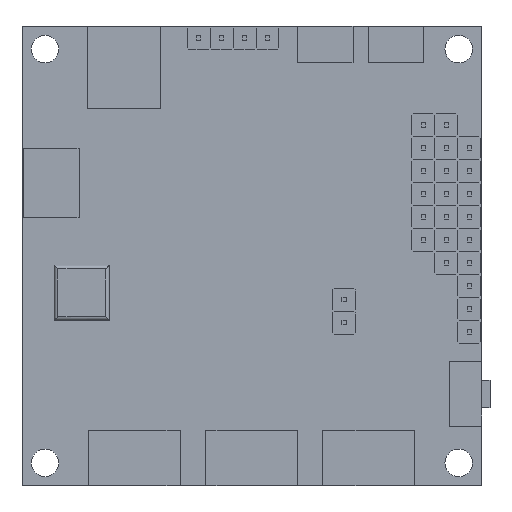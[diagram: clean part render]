
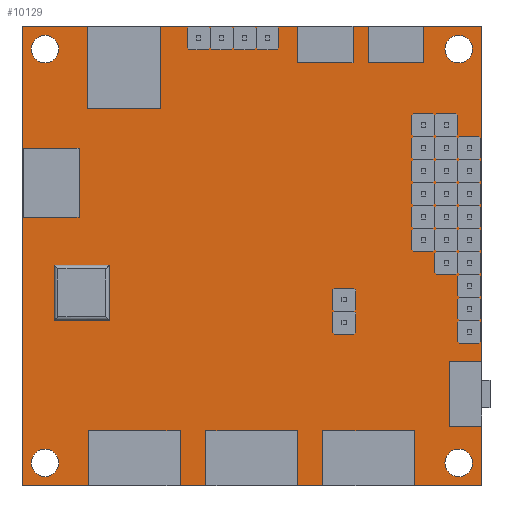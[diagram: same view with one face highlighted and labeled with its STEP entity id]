
A CAD part, top view. The second image highlights one B-rep face of the part: STEP entity #10129.
In plain terms, the highlighted planar face has unit normal (0, 0, 1).
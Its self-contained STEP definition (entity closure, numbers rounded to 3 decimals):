
#212 = CIRCLE ( 'NONE', #13092, 1.5 ) ;
#260 = DIRECTION ( 'NONE',  ( 1., 0., 0. ) ) ;
#282 = CARTESIAN_POINT ( 'NONE',  ( 6.041, 6.837, 1.5 ) ) ;
#319 = CARTESIAN_POINT ( 'NONE',  ( 51.041, 51.837, 1.5 ) ) ;
#572 = DIRECTION ( 'NONE',  ( 1., 0., 0. ) ) ;
#582 = EDGE_CURVE ( 'NONE', #12438, #13247, #5208, .T. ) ;
#610 = DIRECTION ( 'NONE',  ( 1., 0., 0. ) ) ;
#819 = EDGE_CURVE ( 'NONE', #7629, #3370, #2709, .T. ) ;
#1092 = ORIENTED_EDGE ( 'NONE', *, *, #7605, .T. ) ;
#1365 = DIRECTION ( 'NONE',  ( 1., 0., 0. ) ) ;
#1439 = LINE ( 'NONE', #7524, #5075 ) ;
#1453 = DIRECTION ( 'NONE',  ( 0., 0., -1. ) ) ;
#1656 = DIRECTION ( 'NONE',  ( 0., 1., 0. ) ) ;
#1691 = EDGE_LOOP ( 'NONE', ( #1092, #5150 ) ) ;
#1757 = FACE_BOUND ( 'NONE', #8066, .T. ) ;
#1876 = AXIS2_PLACEMENT_3D ( 'NONE', #15064, #6921, #12732 ) ;
#2422 = CIRCLE ( 'NONE', #13691, 1.5 ) ;
#2684 = CARTESIAN_POINT ( 'NONE',  ( 7.541, 6.837, 1.5 ) ) ;
#2709 = CIRCLE ( 'NONE', #2741, 1.5 ) ;
#2740 = DIRECTION ( 'NONE',  ( 1., 0., 0. ) ) ;
#2741 = AXIS2_PLACEMENT_3D ( 'NONE', #4185, #11204, #572 ) ;
#2888 = DIRECTION ( 'NONE',  ( 0., -1., 0. ) ) ;
#3116 = CARTESIAN_POINT ( 'NONE',  ( 54.041, 6.837, 1.5 ) ) ;
#3240 = EDGE_CURVE ( 'NONE', #12378, #6627, #2422, .T. ) ;
#3370 = VERTEX_POINT ( 'NONE', #282 ) ;
#3459 = EDGE_CURVE ( 'NONE', #3370, #7629, #4963, .T. ) ;
#3487 = CARTESIAN_POINT ( 'NONE',  ( 54.041, 51.837, 1.5 ) ) ;
#3589 = VECTOR ( 'NONE', #9611, 1000. ) ;
#4069 = CARTESIAN_POINT ( 'NONE',  ( 30.041, 29.337, 1.5 ) ) ;
#4185 = CARTESIAN_POINT ( 'NONE',  ( 7.541, 6.837, 1.5 ) ) ;
#4383 = EDGE_CURVE ( 'NONE', #9894, #12129, #12420, .T. ) ;
#4760 = CARTESIAN_POINT ( 'NONE',  ( 52.541, 51.837, 1.5 ) ) ;
#4778 = DIRECTION ( 'NONE',  ( -1., 0., 0. ) ) ;
#4963 = CIRCLE ( 'NONE', #6074, 1.5 ) ;
#5075 = VECTOR ( 'NONE', #2888, 1000. ) ;
#5095 = CARTESIAN_POINT ( 'NONE',  ( 5.041, 54.337, 1.5 ) ) ;
#5150 = ORIENTED_EDGE ( 'NONE', *, *, #3240, .T. ) ;
#5208 = CIRCLE ( 'NONE', #1876, 1.5 ) ;
#5390 = FACE_BOUND ( 'NONE', #1691, .T. ) ;
#5451 = EDGE_LOOP ( 'NONE', ( #8948, #9742 ) ) ;
#5512 = VECTOR ( 'NONE', #1656, 1000. ) ;
#5553 = CARTESIAN_POINT ( 'NONE',  ( 9.041, 51.837, 1.5 ) ) ;
#5637 = DIRECTION ( 'NONE',  ( 1., 0., 0. ) ) ;
#5677 = ORIENTED_EDGE ( 'NONE', *, *, #11254, .T. ) ;
#5941 = DIRECTION ( 'NONE',  ( 0., 0., -1. ) ) ;
#5968 = VECTOR ( 'NONE', #4778, 1000. ) ;
#6074 = AXIS2_PLACEMENT_3D ( 'NONE', #2684, #10825, #2740 ) ;
#6117 = FACE_BOUND ( 'NONE', #9302, .T. ) ;
#6305 = CARTESIAN_POINT ( 'NONE',  ( 30.041, 4.337, 1.5 ) ) ;
#6426 = DIRECTION ( 'NONE',  ( 0., 0., 1. ) ) ;
#6452 = CARTESIAN_POINT ( 'NONE',  ( 5.041, 4.337, 1.5 ) ) ;
#6627 = VERTEX_POINT ( 'NONE', #3116 ) ;
#6806 = AXIS2_PLACEMENT_3D ( 'NONE', #11379, #11430, #5637 ) ;
#6921 = DIRECTION ( 'NONE',  ( 0., 0., -1. ) ) ;
#7177 = ORIENTED_EDGE ( 'NONE', *, *, #13364, .T. ) ;
#7362 = CARTESIAN_POINT ( 'NONE',  ( 52.541, 51.837, 1.5 ) ) ;
#7524 = CARTESIAN_POINT ( 'NONE',  ( 5.041, 29.337, 1.5 ) ) ;
#7605 = EDGE_CURVE ( 'NONE', #6627, #12378, #8392, .T. ) ;
#7626 = LINE ( 'NONE', #11609, #5968 ) ;
#7629 = VERTEX_POINT ( 'NONE', #10365 ) ;
#7695 = ORIENTED_EDGE ( 'NONE', *, *, #3459, .T. ) ;
#7812 = CARTESIAN_POINT ( 'NONE',  ( 6.041, 51.837, 1.5 ) ) ;
#7991 = EDGE_CURVE ( 'NONE', #10070, #10714, #1439, .T. ) ;
#8066 = EDGE_LOOP ( 'NONE', ( #8099, #10370 ) ) ;
#8099 = ORIENTED_EDGE ( 'NONE', *, *, #4383, .T. ) ;
#8132 = AXIS2_PLACEMENT_3D ( 'NONE', #7362, #1453, #260 ) ;
#8182 = CARTESIAN_POINT ( 'NONE',  ( 55.041, 54.337, 1.5 ) ) ;
#8260 = DIRECTION ( 'NONE',  ( 0., 0., -1. ) ) ;
#8364 = CARTESIAN_POINT ( 'NONE',  ( 52.541, 6.837, 1.5 ) ) ;
#8392 = CIRCLE ( 'NONE', #6806, 1.5 ) ;
#8948 = ORIENTED_EDGE ( 'NONE', *, *, #10035, .T. ) ;
#9038 = ORIENTED_EDGE ( 'NONE', *, *, #819, .T. ) ;
#9152 = LINE ( 'NONE', #10915, #5512 ) ;
#9302 = EDGE_LOOP ( 'NONE', ( #9038, #7695 ) ) ;
#9399 = EDGE_CURVE ( 'NONE', #12129, #9894, #9932, .T. ) ;
#9611 = DIRECTION ( 'NONE',  ( 1., 0., 0. ) ) ;
#9659 = CARTESIAN_POINT ( 'NONE',  ( 55.041, 4.337, 1.5 ) ) ;
#9742 = ORIENTED_EDGE ( 'NONE', *, *, #582, .T. ) ;
#9894 = VERTEX_POINT ( 'NONE', #3487 ) ;
#9895 = CARTESIAN_POINT ( 'NONE',  ( 51.041, 6.837, 1.5 ) ) ;
#9932 = CIRCLE ( 'NONE', #8132, 1.5 ) ;
#9963 = EDGE_LOOP ( 'NONE', ( #5677, #7177, #10113, #12634 ) ) ;
#10035 = EDGE_CURVE ( 'NONE', #13247, #12438, #212, .T. ) ;
#10070 = VERTEX_POINT ( 'NONE', #5095 ) ;
#10071 = DIRECTION ( 'NONE',  ( 1., 0., 0. ) ) ;
#10113 = ORIENTED_EDGE ( 'NONE', *, *, #7991, .T. ) ;
#10129 = ADVANCED_FACE ( 'NONE', ( #1757, #5390, #10848, #6117, #14350 ), #11051, .T. ) ;
#10365 = CARTESIAN_POINT ( 'NONE',  ( 9.041, 6.837, 1.5 ) ) ;
#10370 = ORIENTED_EDGE ( 'NONE', *, *, #9399, .T. ) ;
#10714 = VERTEX_POINT ( 'NONE', #6452 ) ;
#10825 = DIRECTION ( 'NONE',  ( 0., 0., -1. ) ) ;
#10848 = FACE_BOUND ( 'NONE', #5451, .T. ) ;
#10915 = CARTESIAN_POINT ( 'NONE',  ( 55.041, 29.337, 1.5 ) ) ;
#11051 = PLANE ( 'NONE',  #13046 ) ;
#11204 = DIRECTION ( 'NONE',  ( 0., 0., -1. ) ) ;
#11254 = EDGE_CURVE ( 'NONE', #13938, #15084, #9152, .T. ) ;
#11379 = CARTESIAN_POINT ( 'NONE',  ( 52.541, 6.837, 1.5 ) ) ;
#11430 = DIRECTION ( 'NONE',  ( 0., 0., -1. ) ) ;
#11609 = CARTESIAN_POINT ( 'NONE',  ( 30.041, 54.337, 1.5 ) ) ;
#12129 = VERTEX_POINT ( 'NONE', #319 ) ;
#12248 = CARTESIAN_POINT ( 'NONE',  ( 7.541, 51.837, 1.5 ) ) ;
#12378 = VERTEX_POINT ( 'NONE', #9895 ) ;
#12420 = CIRCLE ( 'NONE', #14704, 1.5 ) ;
#12438 = VERTEX_POINT ( 'NONE', #7812 ) ;
#12535 = LINE ( 'NONE', #6305, #3589 ) ;
#12634 = ORIENTED_EDGE ( 'NONE', *, *, #13968, .T. ) ;
#12732 = DIRECTION ( 'NONE',  ( 1., 0., 0. ) ) ;
#13046 = AXIS2_PLACEMENT_3D ( 'NONE', #4069, #6426, #10071 ) ;
#13092 = AXIS2_PLACEMENT_3D ( 'NONE', #12248, #13269, #610 ) ;
#13247 = VERTEX_POINT ( 'NONE', #5553 ) ;
#13269 = DIRECTION ( 'NONE',  ( 0., 0., -1. ) ) ;
#13364 = EDGE_CURVE ( 'NONE', #15084, #10070, #7626, .T. ) ;
#13691 = AXIS2_PLACEMENT_3D ( 'NONE', #8364, #8260, #1365 ) ;
#13905 = DIRECTION ( 'NONE',  ( 1., 0., 0. ) ) ;
#13938 = VERTEX_POINT ( 'NONE', #9659 ) ;
#13968 = EDGE_CURVE ( 'NONE', #10714, #13938, #12535, .T. ) ;
#14350 = FACE_OUTER_BOUND ( 'NONE', #9963, .T. ) ;
#14704 = AXIS2_PLACEMENT_3D ( 'NONE', #4760, #5941, #13905 ) ;
#15064 = CARTESIAN_POINT ( 'NONE',  ( 7.541, 51.837, 1.5 ) ) ;
#15084 = VERTEX_POINT ( 'NONE', #8182 ) ;
